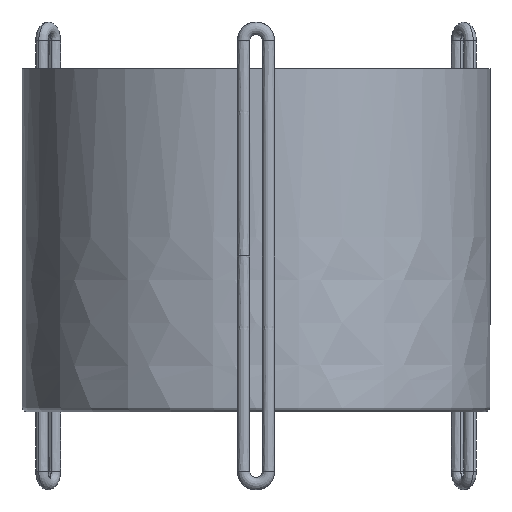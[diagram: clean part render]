
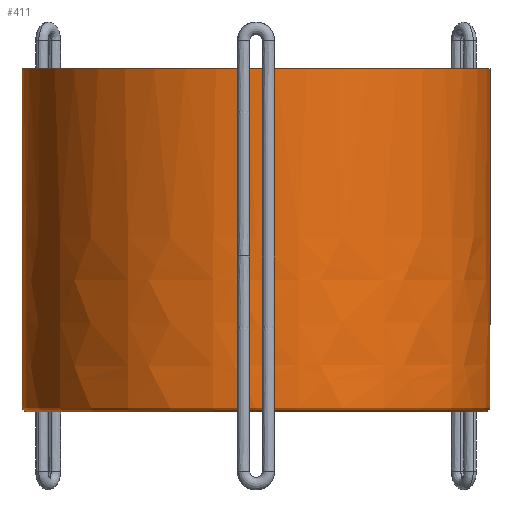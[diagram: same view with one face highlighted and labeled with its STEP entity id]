
A CAD part, front view. The second image highlights one B-rep face of the part: STEP entity #411.
In plain terms, the highlighted free-form (B-spline) face has degree [2, 2] with [5, 7] control points.
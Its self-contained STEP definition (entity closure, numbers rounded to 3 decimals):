
#411=ADVANCED_FACE('',(#447),#1639,.T.);
#447=FACE_OUTER_BOUND('',#483,.T.);
#483=EDGE_LOOP('',(#519,#520,#521));
#519=ORIENTED_EDGE('',*,*,#1219,.T.);
#520=ORIENTED_EDGE('',*,*,#1220,.T.);
#521=ORIENTED_EDGE('',*,*,#1221,.T.);
#659=PCURVE('',#1639,#799);
#660=PCURVE('',#1639,#800);
#661=PCURVE('',#1639,#801);
#799=DEFINITIONAL_REPRESENTATION('',(#939),#4448);
#800=DEFINITIONAL_REPRESENTATION('',(#940),#4448);
#801=DEFINITIONAL_REPRESENTATION('',(#941),#4448);
#939=B_SPLINE_CURVE_WITH_KNOTS('',1,(#1744,#1745),.UNSPECIFIED.,.F.,.F.,
(2,2),(75.,259.142),.UNSPECIFIED.);
#940=B_SPLINE_CURVE_WITH_KNOTS('',1,(#1751,#1752),.UNSPECIFIED.,.F.,.F.,
(2,2),(-235.619,0.),.UNSPECIFIED.);
#941=B_SPLINE_CURVE_WITH_KNOTS('',1,(#1760,#1761),.UNSPECIFIED.,.F.,.F.,
(2,2),(-259.142,-75.),.UNSPECIFIED.);
#1079=SURFACE_CURVE('',#1359,(#659),.PCURVE_S1.);
#1080=SURFACE_CURVE('',#1360,(#660),.PCURVE_S1.);
#1081=SURFACE_CURVE('',#1361,(#661),.PCURVE_S1.);
#1219=EDGE_CURVE('',#1499,#1500,#1079,.T.);
#1220=EDGE_CURVE('',#1500,#1501,#1080,.T.);
#1221=EDGE_CURVE('',#1501,#1499,#1081,.T.);
#1359=(
BOUNDED_CURVE()
B_SPLINE_CURVE(2,(#1737,#1738,#1739,#1740,#1741,#1742,#1743),
 .UNSPECIFIED.,.F.,.F.)
B_SPLINE_CURVE_WITH_KNOTS((3,2,2,3),(75.,148.,151.142,259.142),
 .UNSPECIFIED.)
CURVE()
GEOMETRIC_REPRESENTATION_ITEM()
RATIONAL_B_SPLINE_CURVE((1.,1.,1.,0.707,1.,1.,1.))
REPRESENTATION_ITEM('')
);
#1360=(
BOUNDED_CURVE()
B_SPLINE_CURVE(2,(#1746,#1747,#1748,#1749,#1750),.UNSPECIFIED.,.F.,.F.)
B_SPLINE_CURVE_WITH_KNOTS((3,2,3),(-235.619,-117.81,
0.),.UNSPECIFIED.)
CURVE()
GEOMETRIC_REPRESENTATION_ITEM()
RATIONAL_B_SPLINE_CURVE((1.,0.707,1.,0.707,1.))
REPRESENTATION_ITEM('')
);
#1361=(
BOUNDED_CURVE()
B_SPLINE_CURVE(2,(#1753,#1754,#1755,#1756,#1757,#1758,#1759),
 .UNSPECIFIED.,.F.,.F.)
B_SPLINE_CURVE_WITH_KNOTS((3,2,2,3),(-259.142,-151.142,
-148.,-75.),.UNSPECIFIED.)
CURVE()
GEOMETRIC_REPRESENTATION_ITEM()
RATIONAL_B_SPLINE_CURVE((1.,1.,1.,0.707,1.,1.,1.))
REPRESENTATION_ITEM('')
);
#1499=VERTEX_POINT('',#1734);
#1500=VERTEX_POINT('',#1735);
#1501=VERTEX_POINT('',#1736);
#1639=(
BOUNDED_SURFACE()
B_SPLINE_SURFACE(2,2,((#1699,#1700,#1701,#1702,#1703,#1704,#1705),(#1706,
#1707,#1708,#1709,#1710,#1711,#1712),(#1713,#1714,#1715,#1716,#1717,#1718,
#1719),(#1720,#1721,#1722,#1723,#1724,#1725,#1726),(#1727,#1728,#1729,#1730,
#1731,#1732,#1733)),.UNSPECIFIED.,.F.,.F.,.F.)
B_SPLINE_SURFACE_WITH_KNOTS((3,2,3),(3,2,2,3),(0.,117.81,235.619),
(75.,148.,151.142,259.142),.UNSPECIFIED.)
GEOMETRIC_REPRESENTATION_ITEM()
RATIONAL_B_SPLINE_SURFACE(((1.,1.,1.,0.707,1.,1.,1.),(0.707,
0.707,0.707,0.5,0.707,0.707,
0.707),(1.,1.,1.,0.707,1.,1.,1.),(0.707,
0.707,0.707,0.5,0.707,0.707,
0.707),(1.,1.,1.,0.707,1.,1.,1.)))
REPRESENTATION_ITEM('')
SURFACE()
);
#1699=CARTESIAN_POINT('',(0.349,-2.281,24.));
#1700=CARTESIAN_POINT('',(-36.151,-2.281,24.));
#1701=CARTESIAN_POINT('',(-72.651,-2.281,24.));
#1702=CARTESIAN_POINT('',(-74.651,-2.281,24.));
#1703=CARTESIAN_POINT('',(-74.651,-2.281,26.));
#1704=CARTESIAN_POINT('',(-74.651,-2.281,80.));
#1705=CARTESIAN_POINT('',(-74.651,-2.281,134.));
#1706=CARTESIAN_POINT('',(0.349,-2.281,24.));
#1707=CARTESIAN_POINT('',(-36.151,-38.781,24.));
#1708=CARTESIAN_POINT('',(-72.651,-75.281,24.));
#1709=CARTESIAN_POINT('',(-74.651,-77.281,24.));
#1710=CARTESIAN_POINT('',(-74.651,-77.281,26.));
#1711=CARTESIAN_POINT('',(-74.651,-77.281,80.));
#1712=CARTESIAN_POINT('',(-74.651,-77.281,134.));
#1713=CARTESIAN_POINT('',(0.349,-2.281,24.));
#1714=CARTESIAN_POINT('',(0.349,-38.781,24.));
#1715=CARTESIAN_POINT('',(0.349,-75.281,24.));
#1716=CARTESIAN_POINT('',(0.349,-77.281,24.));
#1717=CARTESIAN_POINT('',(0.349,-77.281,26.));
#1718=CARTESIAN_POINT('',(0.349,-77.281,80.));
#1719=CARTESIAN_POINT('',(0.349,-77.281,134.));
#1720=CARTESIAN_POINT('',(0.349,-2.281,24.));
#1721=CARTESIAN_POINT('',(36.849,-38.781,24.));
#1722=CARTESIAN_POINT('',(73.349,-75.281,24.));
#1723=CARTESIAN_POINT('',(75.349,-77.281,24.));
#1724=CARTESIAN_POINT('',(75.349,-77.281,26.));
#1725=CARTESIAN_POINT('',(75.349,-77.281,80.));
#1726=CARTESIAN_POINT('',(75.349,-77.281,134.));
#1727=CARTESIAN_POINT('',(0.349,-2.281,24.));
#1728=CARTESIAN_POINT('',(36.849,-2.281,24.));
#1729=CARTESIAN_POINT('',(73.349,-2.281,24.));
#1730=CARTESIAN_POINT('',(75.349,-2.281,24.));
#1731=CARTESIAN_POINT('',(75.349,-2.281,26.));
#1732=CARTESIAN_POINT('',(75.349,-2.281,80.));
#1733=CARTESIAN_POINT('',(75.349,-2.281,134.));
#1734=CARTESIAN_POINT('',(0.349,-2.281,24.));
#1735=CARTESIAN_POINT('',(75.349,-2.281,134.));
#1736=CARTESIAN_POINT('',(-74.651,-2.281,134.));
#1737=CARTESIAN_POINT('',(0.349,-2.281,24.));
#1738=CARTESIAN_POINT('',(36.849,-2.281,24.));
#1739=CARTESIAN_POINT('',(73.349,-2.281,24.));
#1740=CARTESIAN_POINT('',(75.349,-2.281,24.));
#1741=CARTESIAN_POINT('',(75.349,-2.281,26.));
#1742=CARTESIAN_POINT('',(75.349,-2.281,80.));
#1743=CARTESIAN_POINT('',(75.349,-2.281,134.));
#1744=CARTESIAN_POINT('',(235.619,75.));
#1745=CARTESIAN_POINT('',(235.619,259.142));
#1746=CARTESIAN_POINT('',(75.349,-2.281,134.));
#1747=CARTESIAN_POINT('',(75.349,-77.281,134.));
#1748=CARTESIAN_POINT('',(0.349,-77.281,134.));
#1749=CARTESIAN_POINT('',(-74.651,-77.281,134.));
#1750=CARTESIAN_POINT('',(-74.651,-2.281,134.));
#1751=CARTESIAN_POINT('',(235.619,259.142));
#1752=CARTESIAN_POINT('',(0.,259.142));
#1753=CARTESIAN_POINT('',(-74.651,-2.281,134.));
#1754=CARTESIAN_POINT('',(-74.651,-2.281,80.));
#1755=CARTESIAN_POINT('',(-74.651,-2.281,26.));
#1756=CARTESIAN_POINT('',(-74.651,-2.281,24.));
#1757=CARTESIAN_POINT('',(-72.651,-2.281,24.));
#1758=CARTESIAN_POINT('',(-36.151,-2.281,24.));
#1759=CARTESIAN_POINT('',(0.349,-2.281,24.));
#1760=CARTESIAN_POINT('',(0.,259.142));
#1761=CARTESIAN_POINT('',(0.,75.));
#4448=(
GEOMETRIC_REPRESENTATION_CONTEXT(2)
PARAMETRIC_REPRESENTATION_CONTEXT()
REPRESENTATION_CONTEXT('pspace','')
);
